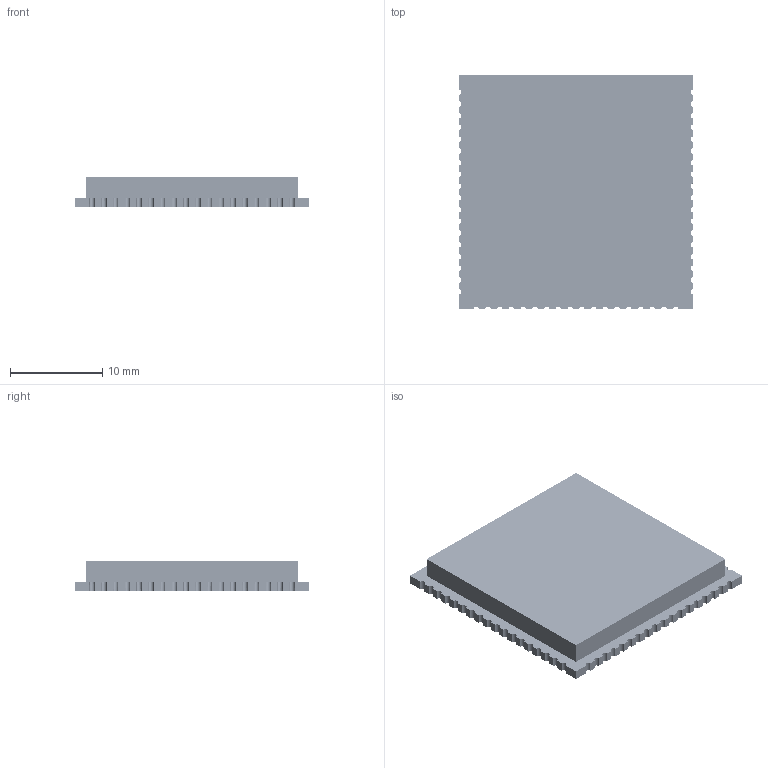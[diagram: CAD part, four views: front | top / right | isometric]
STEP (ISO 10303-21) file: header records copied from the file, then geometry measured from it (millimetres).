
FILE_DESCRIPTION(/* description */ (''),/* implementation_level */ '2;1');
FILE_NAME(/* name */ 'M1-3D1',/* time_stamp */ '2020-08-05T17:03:51+08:00',/* author */ (''),/* organization */ (''),/* preprocessor_version */ 'ST-DEVELOPER v16.5',/* originating_system */ '',/* authorisation */ '');
FILE_SCHEMA (('AUTOMOTIVE_DESIGN'));
Products named in the file (114): Document; 7831048000; Extruded; R31; User_Library-R0402-2; R30; U5; User_Library-WSON-8_6x8mm; User_Library-WSON-8_6x8mm_Board; User_Library-WSON-8_6x8mm_Designator14; User_Library-WSON-8_6x8mm_858032368; User_Library-WSON-8_6x8mm_Extruded; User_Library-WSON-8_6x8mm_858032240; User_Library-WSON-8_6x8mm_Cylinder; User_Library-WSON-8_6x8mm_858031856; User_Library-WSON-8_6x8mm_Extruded_2; User_Library-WSON-8_6x8mm_857275360; User_Library-WSON-8_6x8mm_Cylinder_2; User_Library-WSON-8_6x8mm_894460672; User_Library-WSON-8_6x8mm_Extruded_3; C1; User_Library-CapCeramic_Kemet_0603_1608; C2; C3; User_Library-0402_Cap; C4; C5; C6; C7; C8; C10; C11; C14; C18; C22; C23; C35; C36; C38; C41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
Assembly tree (343 placements, depth 6):
  Document
    7831048000
      Extruded
    R31
      User_Library-R0402-2
    R30
      User_Library-R0402-2
    U5
      User_Library-WSON-8_6x8mm
        User_Library-WSON-8_6x8mm_Board
        User_Library-WSON-8_6x8mm_Designator14
          User_Library-WSON-8_6x8mm_858032368
            User_Library-WSON-8_6x8mm_Extruded
          User_Library-WSON-8_6x8mm_858032240  x8
            User_Library-WSON-8_6x8mm_Cylinder
          User_Library-WSON-8_6x8mm_858031856  x8
            User_Library-WSON-8_6x8mm_Extruded_2
          User_Library-WSON-8_6x8mm_857275360
            User_Library-WSON-8_6x8mm_Cylinder_2
          User_Library-WSON-8_6x8mm_894460672
            User_Library-WSON-8_6x8mm_Extruded_3
    C1
      User_Library-CapCeramic_Kemet_0603_1608
    C2
      User_Library-CapCeramic_Kemet_0603_1608
    C3
      User_Library-0402_Cap
    C4
      User_Library-CapCeramic_Kemet_0603_1608
    C5
      User_Library-CapCeramic_Kemet_0603_1608
    C6
      User_Library-CapCeramic_Kemet_0603_1608
    C7
      User_Library-0402_Cap
    C8
      User_Library-0402_Cap
    C10
      User_Library-CapCeramic_Kemet_0603_1608
    C11
      User_Library-0402_Cap
    C14
      User_Library-0402_Cap
    C18
      User_Library-0402_Cap
    C22
      User_Library-0402_Cap
    C23
      User_Library-0402_Cap
    C35
      User_Library-CapCeramic_Kemet_0603_1608
    C36
      User_Library-CapCeramic_Kemet_0603_1608
    C38
      User_Library-0402_Cap
    C41
      User_Library-0402_Cap
    C42
      User_Library-0402_Cap
    C43
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Bounding box: 25.4 x 25.4 x 3.2 mm (x, y, z)
Surface area: 3728.4 mm2
Topology: 409 solids, 409 shells, 14146 faces, 37419 edges, 23372 vertices
Faces by surface type: bspline 14146
Entity records: 207832 total; most frequent: CARTESIAN_POINT 112924, B_SPLINE_CURVE_WITH_KNOTS 19715, ORIENTED_EDGE 13906, PCURVE 13906, DEFINITIONAL_REPRESENTATION 13906, SURFACE_CURVE 6953, EDGE_CURVE 6953, VERTEX_POINT 4567
